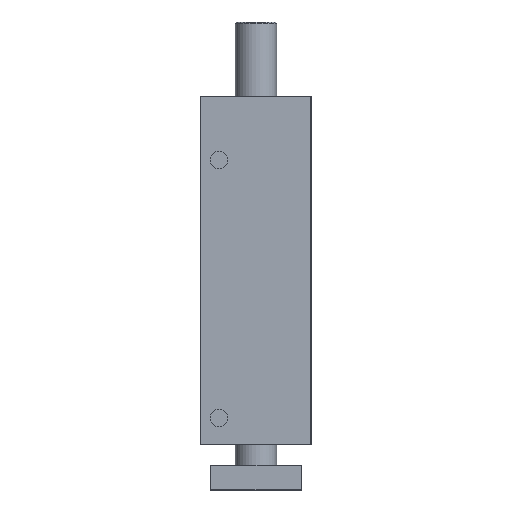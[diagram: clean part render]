
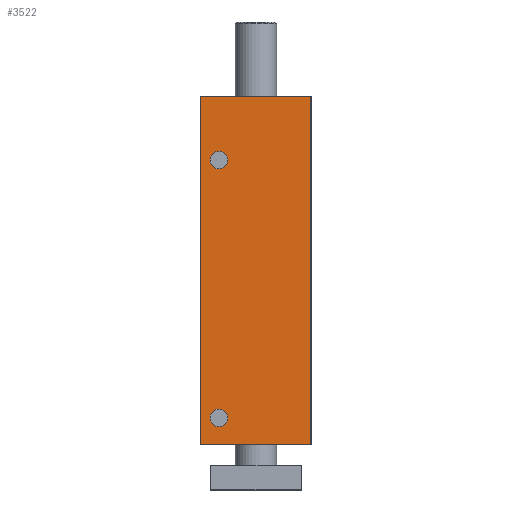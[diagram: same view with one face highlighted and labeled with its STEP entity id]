
A CAD part, front view. The second image highlights one B-rep face of the part: STEP entity #3522.
In plain terms, the highlighted planar face has unit normal (0, -1, 0).
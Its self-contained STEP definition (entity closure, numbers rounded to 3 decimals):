
#255=CARTESIAN_POINT('',(-27.0,-60.0,0.0));
#256=VERTEX_POINT('',#255);
#263=CARTESIAN_POINT('',(-27.0,-60.0,169.0));
#264=VERTEX_POINT('',#263);
#265=CARTESIAN_POINT('',(-27.0,-60.0,0.0));
#266=DIRECTION('',(0.0,0.0,1.0));
#267=VECTOR('',#266,169.0);
#268=LINE('',#265,#267);
#269=EDGE_CURVE('',#256,#264,#268,.T.);
#971=CARTESIAN_POINT('',(26.5,-60.0,0.0));
#972=VERTEX_POINT('',#971);
#979=CARTESIAN_POINT('',(-27.0,-60.0,0.0));
#980=DIRECTION('',(1.0,0.0,0.0));
#981=VECTOR('',#980,53.5);
#982=LINE('',#979,#981);
#983=EDGE_CURVE('',#256,#972,#982,.T.);
#2359=CARTESIAN_POINT('',(-13.717,-60.0,138.0));
#2360=VERTEX_POINT('',#2359);
#2361=CARTESIAN_POINT('',(-18.0,-60.0,138.0));
#2362=DIRECTION('',(0.0,1.0,0.0));
#2363=DIRECTION('',(1.0,0.0,0.0));
#2364=AXIS2_PLACEMENT_3D('',#2361,#2362,#2363);
#2365=CIRCLE('',#2364,4.283);
#2366=EDGE_CURVE('',#2360,#2360,#2365,.T.);
#2396=CARTESIAN_POINT('',(-13.717,-60.0,13.));
#2397=VERTEX_POINT('',#2396);
#2398=CARTESIAN_POINT('',(-18.0,-60.0,13.));
#2399=DIRECTION('',(0.0,1.0,0.0));
#2400=DIRECTION('',(1.0,0.0,0.0));
#2401=AXIS2_PLACEMENT_3D('',#2398,#2399,#2400);
#2402=CIRCLE('',#2401,4.283);
#2403=EDGE_CURVE('',#2397,#2397,#2402,.T.);
#3481=CARTESIAN_POINT('',(26.5,-60.0,169.0));
#3482=VERTEX_POINT('',#3481);
#3489=CARTESIAN_POINT('',(26.5,-60.0,0.0));
#3490=DIRECTION('',(0.0,0.0,1.0));
#3491=VECTOR('',#3490,169.0);
#3492=LINE('',#3489,#3491);
#3493=EDGE_CURVE('',#972,#3482,#3492,.T.);
#3500=CARTESIAN_POINT('',(26.5,-60.0,0.0));
#3501=DIRECTION('',(0.0,-1.0,0.0));
#3502=DIRECTION('',(0.0,0.0,-1.0));
#3503=AXIS2_PLACEMENT_3D('',#3500,#3501,#3502);
#3504=PLANE('',#3503);
#3505=CARTESIAN_POINT('',(26.5,-60.0,169.0));
#3506=DIRECTION('',(-1.0,0.0,0.0));
#3507=VECTOR('',#3506,53.5);
#3508=LINE('',#3505,#3507);
#3509=EDGE_CURVE('',#3482,#264,#3508,.T.);
#3510=ORIENTED_EDGE('',*,*,#3509,.T.);
#3511=ORIENTED_EDGE('',*,*,#269,.F.);
#3512=ORIENTED_EDGE('',*,*,#983,.T.);
#3513=ORIENTED_EDGE('',*,*,#3493,.T.);
#3514=EDGE_LOOP('',(#3510,#3511,#3512,#3513));
#3515=FACE_OUTER_BOUND('',#3514,.T.);
#3516=ORIENTED_EDGE('',*,*,#2366,.T.);
#3517=EDGE_LOOP('',(#3516));
#3518=FACE_BOUND('',#3517,.T.);
#3519=ORIENTED_EDGE('',*,*,#2403,.T.);
#3520=EDGE_LOOP('',(#3519));
#3521=FACE_BOUND('',#3520,.T.);
#3522=ADVANCED_FACE('',(#3515,#3518,#3521),#3504,.T.);
